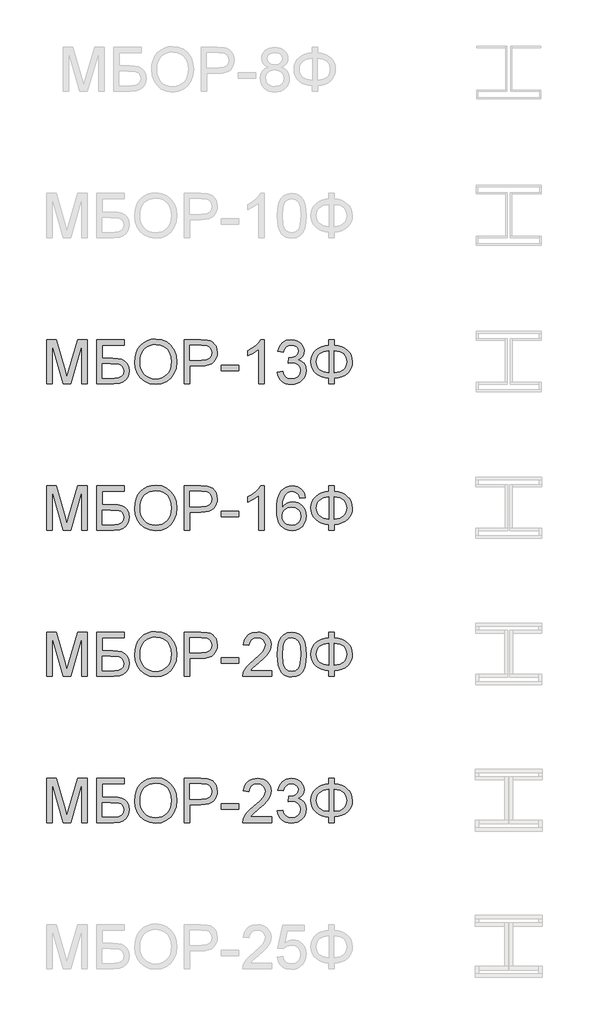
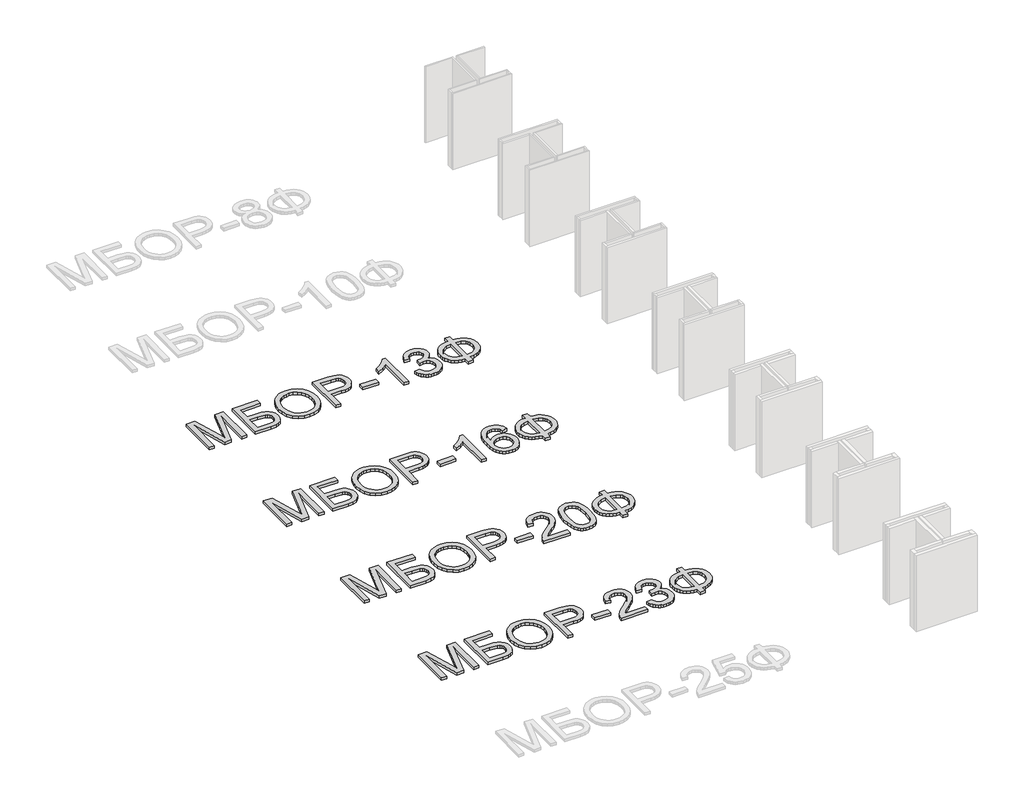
# One storey, part 14 of 35: 4 proxies.
"""IFC4 building model written with IfcOpenShell, lengths in millimetres."""

from ifc_helpers import new_model, si_unit, origin, origin_with_axes, place, context, project, spatial, polyline, outline, extrude, element, save

model = new_model("IFC4")

# Units and contexts
model_context = context("Model", 3, world=origin())
ifc_project = project(units=[si_unit("LENGTHUNIT", "METRE", prefix="MILLI")], contexts=[model_context])

# Site, building, storey
site = spatial("IfcSite", under=ifc_project)
building = spatial("IfcBuilding", under=site)
storey = spatial("IfcBuildingStorey", under=building, Name="Этаж 01", Elevation=0.0)

# Proxies
placement = place(None, origin())
element("IfcBuildingElementProxy", 1, Name="600 мм Arial", ObjectType="600 мм Arial", at=placement, inside=storey, context=model_context, shape_type="SweptSolid", body=[
    extrude(outline(polyline([(15506.5104711, -52310.4960856), (15506.5104711, -52009.1271552), (15571.3312786, -52009.1271552), (15632.988301, -52221.5422192), (15645.4227125, -52265.9087878), (15658.8871935, -52217.8633993), (15719.5141463, -52009.1271552), (15784.3349539, -52009.1271552), (15784.3349539, -52310.4960856), (15746.6638375, -52310.4960856), (15746.6638375, -52046.7982715), (15670.9537229, -52310.4960856), (15619.891702, -52310.4960856), (15544.1815874, -52046.7982715), (15544.1815874, -52310.4960856), (15506.5104711, -52310.4960856)])), origin_with_axes(), (0.0, 0.0, 1.0), 20.0),
    extrude(outline(polyline([(15850.2594074, -52009.1271552), (16038.6149889, -52009.1271552), (16038.6149889, -52046.7982715), (15887.9305237, -52046.7982715), (15887.9305237, -52136.2671727), (15958.4902904, -52136.2671727), (15993.5678386, -52138.1801591), (16020.6623476, -52143.9191182), (16041.4660744, -52154.9739722), (16057.6712763, -52172.8346431), (16068.1007308, -52195.8272678), (16071.5772157, -52222.2779832), (16069.1032093, -52244.4888587), (16061.68119, -52265.209812), (16049.3479461, -52283.3555915), (16032.1402658, -52297.840945), (16005.5975799, -52307.3323005), (15965.2593191, -52310.4960856), (15850.2594074, -52310.4960856), (15850.2594074, -52009.1271552)]), holes=[polyline([(15887.9305237, -52272.8249693), (15968.6438334, -52272.8249693), (15997.1730822, -52269.7163665), (16017.5721388, -52260.3905579), (16029.8226092, -52244.8475436), (16033.9060994, -52223.0873236), (16031.5700487, -52206.8821217), (16024.5618967, -52193.5831876), (16013.3874811, -52183.7239501), (15998.5526396, -52177.8378382), (15941.7884478, -52173.938289), (15887.9305237, -52173.938289), (15887.9305237, -52272.8249693)])]), origin_with_axes(), (0.0, 0.0, 1.0), 20.0),
    extrude(outline(polyline([(16109.248332, -52163.784746), (16111.7591266, -52128.4358848), (16119.2915105, -52097.1429225), (16131.8454835, -52069.9058593), (16149.4210459, -52046.7246951), (16170.9651352, -52028.2156322), (16195.4246894, -52014.994873), (16222.7997083, -52007.0624175), (16253.0901921, -52004.4182657), (16292.6191125, -52009.3846726), (16328.0645427, -52024.2838934), (16357.4951023, -52048.0674644), (16378.9794109, -52079.6869219), (16392.1127981, -52117.6155556), (16396.4905938, -52160.3266552), (16391.8828718, -52203.607972), (16378.0597059, -52242.0700345), (16355.7844511, -52273.7446743), (16325.8204626, -52296.6637226), (16290.678535, -52310.569662), (16252.8694629, -52315.2049752), (16212.7335372, -52310.0822184), (16177.0857719, -52294.7139481), (16147.7287887, -52270.4889187), (16126.4652094, -52238.7958848), (16113.5525513, -52202.329582), (16109.248332, -52163.784746)]), holes=[polyline([(16146.9194483, -52164.152628), (16148.8025443, -52189.1272169), (16154.4518321, -52211.2967056), (16163.867312, -52230.6610942), (16177.0489837, -52247.2203825), (16193.0725439, -52260.4825284), (16211.0136889, -52269.9554898), (16230.8724189, -52275.6392666), (16252.6487337, -52277.5338589), (16274.7975291, -52275.6208725), (16294.8907838, -52269.8819134), (16312.9284979, -52260.3169815), (16328.9106713, -52246.9260769), (16341.995774, -52230.0173007), (16351.342276, -52209.8987541), (16356.9501771, -52186.570437), (16358.8194775, -52160.0323496), (16355.6189042, -52126.6838468), (16346.0171841, -52097.8602924), (16330.2626376, -52074.2882536), (16308.6035852, -52056.6942972), (16282.4747665, -52045.7406108), (16253.3109213, -52042.089382), (16232.2910638, -52043.8483178), (16212.7887195, -52049.1251251), (16194.8038885, -52057.9198041), (16178.3365707, -52070.2323546), (16164.5915796, -52086.6559864), (16154.7737289, -52107.7839093), (16148.8830184, -52133.6161231), (16146.9194483, -52164.152628)])]), origin_with_axes(), (0.0, 0.0, 1.0), 20.0),
    extrude(outline(polyline([(16448.2883787, -52310.4960856), (16448.2883787, -52009.1271552), (16559.9773525, -52009.1271552), (16605.0061087, -52011.9966348), (16625.0832686, -52017.3585148), (16641.6103672, -52026.0865152), (16654.9184984, -52038.5761089), (16665.3387559, -52055.2227692), (16672.0709964, -52074.8584707), (16674.3150766, -52096.3151881), (16672.7998626, -52114.8150539), (16668.2542207, -52131.8341947), (16660.6781509, -52147.3726105), (16650.0716531, -52161.4303012), (16635.5104239, -52173.0829634), (16616.0701597, -52181.4062935), (16591.7508606, -52186.4002916), (16562.5525264, -52188.0649577), (16485.9594951, -52188.0649577), (16485.9594951, -52310.4960856), (16448.2883787, -52310.4960856)]), holes=[polyline([(16485.9594951, -52150.3938413), (16564.7598184, -52150.3938413), (16598.1635036, -52146.9357506), (16620.2364233, -52136.5614783), (16632.542076, -52119.914818), (16636.6439603, -52097.6395632), (16634.2251362, -52080.7169915), (16626.9686638, -52066.44317), (16615.7758541, -52055.7010158), (16601.5480179, -52049.3734455), (16563.8769016, -52046.7982715), (16485.9594951, -52046.7982715), (16485.9594951, -52150.3938413)])]), origin_with_axes(), (0.0, 0.0, 1.0), 20.0),
    extrude(outline(polyline([(16702.5684138, -52221.0271844), (16702.5684138, -52183.3560681), (16820.2906523, -52183.3560681), (16820.2906523, -52221.0271844), (16702.5684138, -52221.0271844)])), origin_with_axes(), (0.0, 0.0, 1.0), 20.0),
    extrude(outline(polyline([(16994.5195652, -52310.4960856), (16956.8484489, -52310.4960856), (16956.8484489, -52075.6402199), (16921.1638953, -52101.0608658), (16881.5062163, -52120.0803649), (16881.5062163, -52084.4693878), (16911.0931257, -52068.3745505), (16936.7253037, -52049.2262927), (16956.9312223, -52028.8640242), (16970.2393535, -52009.1271552), (16994.5195652, -52009.1271552), (16994.5195652, -52310.4960856)])), origin_with_axes(), (0.0, 0.0, 1.0), 20.0),
    extrude(outline(polyline([(17083.9884664, -52230.4449635), (17121.6595827, -52225.736074), (17130.0932775, -52249.4092803), (17142.4449154, -52265.393753), (17159.321502, -52274.4988324), (17181.3300423, -52277.5338589), (17207.1553584, -52273.3583982), (17227.0945625, -52260.8320163), (17239.8416737, -52242.1436109), (17244.0907107, -52219.48208), (17239.8784619, -52197.9701804), (17227.2417153, -52180.5233768), (17208.1118516, -52168.9626851), (17184.4202511, -52165.1091212), (17158.0063238, -52169.2293995), (17162.2001786, -52131.5582832), (17168.2334433, -52131.9997416), (17190.8030037, -52129.2958089), (17210.9813311, -52121.1840109), (17225.2183644, -52107.4620125), (17229.9640421, -52087.9274786), (17226.5243454, -52071.6578973), (17216.2052555, -52058.4601308), (17200.4599061, -52049.7137363), (17180.7414311, -52046.7982715), (17160.986168, -52049.7413275), (17144.8361484, -52058.5704954), (17133.0455305, -52073.2857752), (17126.3684723, -52093.8871669), (17088.697356, -52089.1782774), (17099.7889981, -52055.3515279), (17119.5258671, -52030.0964289), (17146.5284056, -52014.3694736), (17179.417056, -52009.1271552), (17203.0994594, -52011.7115262), (17224.8504824, -52019.4646393), (17243.1893998, -52031.6967156), (17256.6354867, -52047.7179765), (17264.8852405, -52066.1764556), (17267.6351584, -52085.7201866), (17265.0231962, -52103.9303454), (17257.1873097, -52120.4482469), (17244.2378635, -52134.5197333), (17226.2852221, -52145.3906462), (17249.866458, -52154.9187899), (17267.3408528, -52171.1423859), (17278.1565835, -52193.1785174), (17281.761827, -52220.1442676), (17279.9592052, -52239.2557373), (17274.5513399, -52256.8588908), (17265.538231, -52272.953728), (17252.9198786, -52287.5402491), (17237.5470097, -52299.6435668), (17220.2703515, -52308.2887937), (17201.089904, -52313.4759298), (17180.0056672, -52315.2049752), (17160.9493798, -52313.7288487), (17143.5853496, -52309.3004692), (17127.9135766, -52301.9198366), (17113.9340608, -52291.5869511), (17102.2124207, -52278.9088178), (17093.314275, -52264.4924422), (17087.2396235, -52248.337824), (17083.9884664, -52230.4449635)])), origin_with_axes(), (0.0, 0.0, 1.0), 20.0),
    extrude(outline(polyline([(17437.1551818, -52046.7982715), (17437.1551818, -52009.1271552), (17474.8262981, -52009.1271552), (17474.8262981, -52046.7982715), (17501.6977786, -52050.1184065), (17525.5848164, -52056.9886028), (17546.4874115, -52067.4088603), (17564.4055639, -52081.3791791), (17578.7782536, -52098.0856202), (17589.0444605, -52116.7142447), (17595.2041847, -52137.2650526), (17597.2574261, -52159.738044), (17595.268564, -52181.76038), (17589.3019779, -52202.0628676), (17579.3576678, -52220.6455069), (17565.4356335, -52237.5082978), (17547.8393778, -52251.7177399), (17526.8724034, -52262.3403325), (17502.5347101, -52269.3760756), (17474.8262981, -52272.8249693), (17474.8262981, -52310.4960856), (17437.1551818, -52310.4960856), (17437.1551818, -52272.8249693), (17411.9874548, -52270.0175699), (17389.0178227, -52263.6555106), (17368.2462856, -52253.7387916), (17349.6728433, -52240.2674128), (17334.3827479, -52223.7977957), (17323.4612512, -52204.8863619), (17316.9083531, -52183.5331113), (17314.7240538, -52159.738044), (17316.9014553, -52135.8349114), (17323.43366, -52114.4517704), (17334.3206678, -52095.5886211), (17349.5624787, -52079.2454635), (17368.101432, -52065.9051426), (17388.879867, -52056.0505037), (17411.8977836, -52049.6815466), (17437.1551818, -52046.7982715)]), holes=[polyline([(17437.1551818, -52084.4693878), (17402.8777769, -52090.5026525), (17375.8292532, -52105.5122379), (17365.5768418, -52116.217604), (17358.2536909, -52128.8359564), (17353.8598003, -52143.3672952), (17352.3951701, -52159.8116204), (17353.8414062, -52176.1064935), (17358.1801145, -52190.5573582), (17365.4112949, -52203.1642143), (17375.5349476, -52213.9270619), (17402.5098949, -52229.0746031), (17437.1551818, -52235.153853), (17437.1551818, -52084.4693878)]), polyline([(17474.8262981, -52084.4693878), (17474.8262981, -52235.153853), (17510.0693932, -52228.9274503), (17536.9247789, -52213.7799091), (17546.8391986, -52203.0538497), (17553.9209271, -52190.4837818), (17559.5863098, -52159.8116204), (17554.0220946, -52129.5533263), (17547.0668256, -52117.0591341), (17537.3294491, -52106.3215783), (17510.575231, -52090.9992932), (17474.8262981, -52084.4693878)])]), origin_with_axes(), (0.0, 0.0, 1.0), 20.0),
])
element("IfcBuildingElementProxy", 2, Name="600 мм Arial", ObjectType="600 мм Arial", at=placement, inside=storey, context=model_context, shape_type="SweptSolid", body=[
    extrude(outline(polyline([(15506.5104711, -53310.4960856), (15506.5104711, -53009.1271552), (15571.3312786, -53009.1271552), (15632.988301, -53221.5422192), (15645.4227125, -53265.9087878), (15658.8871935, -53217.8633993), (15719.5141463, -53009.1271552), (15784.3349539, -53009.1271552), (15784.3349539, -53310.4960856), (15746.6638375, -53310.4960856), (15746.6638375, -53046.7982715), (15670.9537229, -53310.4960856), (15619.891702, -53310.4960856), (15544.1815874, -53046.7982715), (15544.1815874, -53310.4960856), (15506.5104711, -53310.4960856)])), origin_with_axes(), (0.0, 0.0, 1.0), 20.0),
    extrude(outline(polyline([(15850.2594074, -53009.1271552), (16038.6149889, -53009.1271552), (16038.6149889, -53046.7982715), (15887.9305237, -53046.7982715), (15887.9305237, -53136.2671727), (15958.4902904, -53136.2671727), (15993.5678386, -53138.1801591), (16020.6623476, -53143.9191182), (16041.4660744, -53154.9739722), (16057.6712763, -53172.8346431), (16068.1007308, -53195.8272678), (16071.5772157, -53222.2779832), (16069.1032093, -53244.4888587), (16061.68119, -53265.209812), (16049.3479461, -53283.3555915), (16032.1402658, -53297.840945), (16005.5975799, -53307.3323005), (15965.2593191, -53310.4960856), (15850.2594074, -53310.4960856), (15850.2594074, -53009.1271552)]), holes=[polyline([(15887.9305237, -53272.8249693), (15968.6438334, -53272.8249693), (15997.1730822, -53269.7163665), (16017.5721388, -53260.3905579), (16029.8226092, -53244.8475436), (16033.9060994, -53223.0873236), (16031.5700487, -53206.8821217), (16024.5618967, -53193.5831876), (16013.3874811, -53183.7239501), (15998.5526396, -53177.8378382), (15941.7884478, -53173.938289), (15887.9305237, -53173.938289), (15887.9305237, -53272.8249693)])]), origin_with_axes(), (0.0, 0.0, 1.0), 20.0),
    extrude(outline(polyline([(16109.248332, -53163.784746), (16111.7591266, -53128.4358848), (16119.2915105, -53097.1429225), (16131.8454835, -53069.9058593), (16149.4210459, -53046.7246951), (16170.9651352, -53028.2156322), (16195.4246894, -53014.994873), (16222.7997083, -53007.0624175), (16253.0901921, -53004.4182657), (16292.6191125, -53009.3846726), (16328.0645427, -53024.2838934), (16357.4951023, -53048.0674644), (16378.9794109, -53079.6869219), (16392.1127981, -53117.6155556), (16396.4905938, -53160.3266552), (16391.8828718, -53203.607972), (16378.0597059, -53242.0700345), (16355.7844511, -53273.7446743), (16325.8204626, -53296.6637226), (16290.678535, -53310.569662), (16252.8694629, -53315.2049752), (16212.7335372, -53310.0822184), (16177.0857719, -53294.7139481), (16147.7287887, -53270.4889187), (16126.4652094, -53238.7958848), (16113.5525513, -53202.329582), (16109.248332, -53163.784746)]), holes=[polyline([(16146.9194483, -53164.152628), (16148.8025443, -53189.1272169), (16154.4518321, -53211.2967056), (16163.867312, -53230.6610942), (16177.0489837, -53247.2203825), (16193.0725439, -53260.4825284), (16211.0136889, -53269.9554898), (16230.8724189, -53275.6392666), (16252.6487337, -53277.5338589), (16274.7975291, -53275.6208725), (16294.8907838, -53269.8819134), (16312.9284979, -53260.3169815), (16328.9106713, -53246.9260769), (16341.995774, -53230.0173007), (16351.342276, -53209.8987541), (16356.9501771, -53186.570437), (16358.8194775, -53160.0323496), (16355.6189042, -53126.6838468), (16346.0171841, -53097.8602924), (16330.2626376, -53074.2882536), (16308.6035852, -53056.6942972), (16282.4747665, -53045.7406108), (16253.3109213, -53042.089382), (16232.2910638, -53043.8483178), (16212.7887195, -53049.1251251), (16194.8038885, -53057.9198041), (16178.3365707, -53070.2323546), (16164.5915796, -53086.6559864), (16154.7737289, -53107.7839093), (16148.8830184, -53133.6161231), (16146.9194483, -53164.152628)])]), origin_with_axes(), (0.0, 0.0, 1.0), 20.0),
    extrude(outline(polyline([(16448.2883787, -53310.4960856), (16448.2883787, -53009.1271552), (16559.9773525, -53009.1271552), (16605.0061087, -53011.9966348), (16625.0832686, -53017.3585148), (16641.6103672, -53026.0865152), (16654.9184984, -53038.5761089), (16665.3387559, -53055.2227692), (16672.0709964, -53074.8584707), (16674.3150766, -53096.3151881), (16672.7998626, -53114.8150539), (16668.2542207, -53131.8341947), (16660.6781509, -53147.3726105), (16650.0716531, -53161.4303012), (16635.5104239, -53173.0829634), (16616.0701597, -53181.4062935), (16591.7508606, -53186.4002916), (16562.5525264, -53188.0649577), (16485.9594951, -53188.0649577), (16485.9594951, -53310.4960856), (16448.2883787, -53310.4960856)]), holes=[polyline([(16485.9594951, -53150.3938413), (16564.7598184, -53150.3938413), (16598.1635036, -53146.9357506), (16620.2364233, -53136.5614783), (16632.542076, -53119.914818), (16636.6439603, -53097.6395632), (16634.2251362, -53080.7169915), (16626.9686638, -53066.44317), (16615.7758541, -53055.7010158), (16601.5480179, -53049.3734455), (16563.8769016, -53046.7982715), (16485.9594951, -53046.7982715), (16485.9594951, -53150.3938413)])]), origin_with_axes(), (0.0, 0.0, 1.0), 20.0),
    extrude(outline(polyline([(16702.5684138, -53221.0271844), (16702.5684138, -53183.3560681), (16820.2906523, -53183.3560681), (16820.2906523, -53221.0271844), (16702.5684138, -53221.0271844)])), origin_with_axes(), (0.0, 0.0, 1.0), 20.0),
    extrude(outline(polyline([(16994.5195652, -53310.4960856), (16956.8484489, -53310.4960856), (16956.8484489, -53075.6402199), (16921.1638953, -53101.0608658), (16881.5062163, -53120.0803649), (16881.5062163, -53084.4693878), (16911.0931257, -53068.3745505), (16936.7253037, -53049.2262927), (16956.9312223, -53028.8640242), (16970.2393535, -53009.1271552), (16994.5195652, -53009.1271552), (16994.5195652, -53310.4960856)])), origin_with_axes(), (0.0, 0.0, 1.0), 20.0),
    extrude(outline(polyline([(17277.0529375, -53089.1782774), (17239.3818212, -53093.8871669), (17233.3117683, -53075.2171556), (17225.1079998, -53062.4700445), (17208.0198811, -53050.7162148), (17187.3633071, -53046.7982715), (17169.8521241, -53049.0791399), (17153.3710107, -53055.921745), (17139.2167509, -53070.3335221), (17127.6560592, -53090.1715587), (17119.8477639, -53118.2317579), (17116.9506932, -53157.3100229), (17132.0614461, -53139.6792782), (17150.1704373, -53127.2540639), (17170.2659913, -53119.8872269), (17191.3364326, -53117.4316146), (17209.4362268, -53119.1100762), (17226.1380693, -53124.145461), (17241.4419603, -53132.537769), (17255.3478998, -53144.2870002), (17266.9039929, -53158.6941789), (17275.1583452, -53175.0603291), (17280.1109566, -53193.385451), (17281.761827, -53213.6695445), (17278.6532242, -53240.6444918), (17269.3274156, -53265.6512704), (17254.5569535, -53286.8596675), (17235.11439, -53302.43947), (17211.882642, -53312.0135989), (17185.7446263, -53315.2049752), (17163.2877297, -53313.0896537), (17143.0059355, -53306.7436893), (17124.8992435, -53296.1670819), (17108.9676539, -53281.3598316), (17095.9791202, -53261.696539), (17086.7015961, -53236.5518046), (17081.1350817, -53205.9256285), (17079.2795769, -53169.8180107), (17081.339716, -53129.3371956), (17087.5201336, -53094.7884778), (17097.8208294, -53066.1718571), (17112.2418036, -53043.4873335), (17127.8721899, -53028.4547555), (17145.9949767, -53017.7171998), (17166.610164, -53011.2746663), (17189.7177518, -53009.1271552), (17222.7719491, -53014.44305), (17249.2410586, -53030.3907345), (17267.7823112, -53055.7194099), (17277.0529375, -53089.1782774)]), holes=[polyline([(17116.9506932, -53213.0809333), (17119.130394, -53229.7735789), (17125.6694965, -53245.7120663), (17135.8230395, -53259.4156706), (17148.8460622, -53269.4036668), (17164.5638204, -53275.5013109), (17182.8015703, -53277.5338589), (17207.6611961, -53273.32161), (17227.2049271, -53260.6848635), (17239.8692648, -53240.8192358), (17244.0907107, -53214.9203433), (17239.9244471, -53190.0607175), (17227.4256563, -53171.1055977), (17207.5508315, -53159.1034476), (17181.2564659, -53155.1027309), (17156.4336283, -53159.1034476), (17135.6758867, -53171.1055977), (17121.6319916, -53189.600865), (17116.9506932, -53213.0809333)])]), origin_with_axes(), (0.0, 0.0, 1.0), 20.0),
    extrude(outline(polyline([(17437.1551818, -53046.7982715), (17437.1551818, -53009.1271552), (17474.8262981, -53009.1271552), (17474.8262981, -53046.7982715), (17501.6977786, -53050.1184065), (17525.5848164, -53056.9886028), (17546.4874115, -53067.4088603), (17564.4055639, -53081.3791791), (17578.7782536, -53098.0856202), (17589.0444605, -53116.7142447), (17595.2041847, -53137.2650526), (17597.2574261, -53159.738044), (17595.268564, -53181.76038), (17589.3019779, -53202.0628676), (17579.3576678, -53220.6455069), (17565.4356335, -53237.5082978), (17547.8393778, -53251.7177399), (17526.8724034, -53262.3403325), (17502.5347101, -53269.3760756), (17474.8262981, -53272.8249693), (17474.8262981, -53310.4960856), (17437.1551818, -53310.4960856), (17437.1551818, -53272.8249693), (17411.9874548, -53270.0175699), (17389.0178227, -53263.6555106), (17368.2462856, -53253.7387916), (17349.6728433, -53240.2674128), (17334.3827479, -53223.7977957), (17323.4612512, -53204.8863619), (17316.9083531, -53183.5331113), (17314.7240538, -53159.738044), (17316.9014553, -53135.8349114), (17323.43366, -53114.4517704), (17334.3206678, -53095.5886211), (17349.5624787, -53079.2454635), (17368.101432, -53065.9051426), (17388.879867, -53056.0505037), (17411.8977836, -53049.6815466), (17437.1551818, -53046.7982715)]), holes=[polyline([(17474.8262981, -53084.4693878), (17474.8262981, -53235.153853), (17510.0693932, -53228.9274503), (17536.9247789, -53213.7799091), (17546.8391986, -53203.0538497), (17553.9209271, -53190.4837818), (17559.5863098, -53159.8116204), (17554.0220946, -53129.5533263), (17547.0668256, -53117.0591341), (17537.3294491, -53106.3215783), (17510.575231, -53090.9992932), (17474.8262981, -53084.4693878)]), polyline([(17437.1551818, -53084.4693878), (17402.8777769, -53090.5026525), (17375.8292532, -53105.5122379), (17365.5768418, -53116.217604), (17358.2536909, -53128.8359564), (17353.8598003, -53143.3672952), (17352.3951701, -53159.8116204), (17353.8414062, -53176.1064935), (17358.1801145, -53190.5573582), (17365.4112949, -53203.1642143), (17375.5349476, -53213.9270619), (17402.5098949, -53229.0746031), (17437.1551818, -53235.153853), (17437.1551818, -53084.4693878)])]), origin_with_axes(), (0.0, 0.0, 1.0), 20.0),
])
element("IfcBuildingElementProxy", 3, Name="600 мм Arial", ObjectType="600 мм Arial", at=placement, inside=storey, context=model_context, shape_type="SweptSolid", body=[
    extrude(outline(polyline([(15506.5104711, -54310.4960856), (15506.5104711, -54009.1271552), (15571.3312786, -54009.1271552), (15632.988301, -54221.5422192), (15645.4227125, -54265.9087878), (15658.8871935, -54217.8633993), (15719.5141463, -54009.1271552), (15784.3349539, -54009.1271552), (15784.3349539, -54310.4960856), (15746.6638375, -54310.4960856), (15746.6638375, -54046.7982715), (15670.9537229, -54310.4960856), (15619.891702, -54310.4960856), (15544.1815874, -54046.7982715), (15544.1815874, -54310.4960856), (15506.5104711, -54310.4960856)])), origin_with_axes(), (0.0, 0.0, 1.0), 20.0),
    extrude(outline(polyline([(15850.2594074, -54009.1271552), (16038.6149889, -54009.1271552), (16038.6149889, -54046.7982715), (15887.9305237, -54046.7982715), (15887.9305237, -54136.2671727), (15958.4902904, -54136.2671727), (15993.5678386, -54138.1801591), (16020.6623476, -54143.9191182), (16041.4660744, -54154.9739722), (16057.6712763, -54172.8346431), (16068.1007308, -54195.8272678), (16071.5772157, -54222.2779832), (16069.1032093, -54244.4888587), (16061.68119, -54265.209812), (16049.3479461, -54283.3555915), (16032.1402658, -54297.840945), (16005.5975799, -54307.3323005), (15965.2593191, -54310.4960856), (15850.2594074, -54310.4960856), (15850.2594074, -54009.1271552)]), holes=[polyline([(15887.9305237, -54272.8249693), (15968.6438334, -54272.8249693), (15997.1730822, -54269.7163665), (16017.5721388, -54260.3905579), (16029.8226092, -54244.8475436), (16033.9060994, -54223.0873236), (16031.5700487, -54206.8821217), (16024.5618967, -54193.5831876), (16013.3874811, -54183.7239501), (15998.5526396, -54177.8378382), (15941.7884478, -54173.938289), (15887.9305237, -54173.938289), (15887.9305237, -54272.8249693)])]), origin_with_axes(), (0.0, 0.0, 1.0), 20.0),
    extrude(outline(polyline([(16109.248332, -54163.784746), (16111.7591266, -54128.4358848), (16119.2915105, -54097.1429225), (16131.8454835, -54069.9058593), (16149.4210459, -54046.7246951), (16170.9651352, -54028.2156322), (16195.4246894, -54014.994873), (16222.7997083, -54007.0624175), (16253.0901921, -54004.4182657), (16292.6191125, -54009.3846726), (16328.0645427, -54024.2838934), (16357.4951023, -54048.0674644), (16378.9794109, -54079.6869219), (16392.1127981, -54117.6155556), (16396.4905938, -54160.3266552), (16391.8828718, -54203.607972), (16378.0597059, -54242.0700345), (16355.7844511, -54273.7446743), (16325.8204626, -54296.6637226), (16290.678535, -54310.569662), (16252.8694629, -54315.2049752), (16212.7335372, -54310.0822184), (16177.0857719, -54294.7139481), (16147.7287887, -54270.4889187), (16126.4652094, -54238.7958848), (16113.5525513, -54202.329582), (16109.248332, -54163.784746)]), holes=[polyline([(16146.9194483, -54164.152628), (16148.8025443, -54189.1272169), (16154.4518321, -54211.2967056), (16163.867312, -54230.6610942), (16177.0489837, -54247.2203825), (16193.0725439, -54260.4825284), (16211.0136889, -54269.9554898), (16230.8724189, -54275.6392666), (16252.6487337, -54277.5338589), (16274.7975291, -54275.6208725), (16294.8907838, -54269.8819134), (16312.9284979, -54260.3169815), (16328.9106713, -54246.9260769), (16341.995774, -54230.0173007), (16351.342276, -54209.8987541), (16356.9501771, -54186.570437), (16358.8194775, -54160.0323496), (16355.6189042, -54126.6838468), (16346.0171841, -54097.8602924), (16330.2626376, -54074.2882536), (16308.6035852, -54056.6942972), (16282.4747665, -54045.7406108), (16253.3109213, -54042.089382), (16232.2910638, -54043.8483178), (16212.7887195, -54049.1251251), (16194.8038885, -54057.9198041), (16178.3365707, -54070.2323546), (16164.5915796, -54086.6559864), (16154.7737289, -54107.7839093), (16148.8830184, -54133.6161231), (16146.9194483, -54164.152628)])]), origin_with_axes(), (0.0, 0.0, 1.0), 20.0),
    extrude(outline(polyline([(16448.2883787, -54310.4960856), (16448.2883787, -54009.1271552), (16559.9773525, -54009.1271552), (16605.0061087, -54011.9966348), (16625.0832686, -54017.3585148), (16641.6103672, -54026.0865152), (16654.9184984, -54038.5761089), (16665.3387559, -54055.2227692), (16672.0709964, -54074.8584707), (16674.3150766, -54096.3151881), (16672.7998626, -54114.8150539), (16668.2542207, -54131.8341947), (16660.6781509, -54147.3726105), (16650.0716531, -54161.4303012), (16635.5104239, -54173.0829634), (16616.0701597, -54181.4062935), (16591.7508606, -54186.4002916), (16562.5525264, -54188.0649577), (16485.9594951, -54188.0649577), (16485.9594951, -54310.4960856), (16448.2883787, -54310.4960856)]), holes=[polyline([(16485.9594951, -54150.3938413), (16564.7598184, -54150.3938413), (16598.1635036, -54146.9357506), (16620.2364233, -54136.5614783), (16632.542076, -54119.914818), (16636.6439603, -54097.6395632), (16634.2251362, -54080.7169915), (16626.9686638, -54066.44317), (16615.7758541, -54055.7010158), (16601.5480179, -54049.3734455), (16563.8769016, -54046.7982715), (16485.9594951, -54046.7982715), (16485.9594951, -54150.3938413)])]), origin_with_axes(), (0.0, 0.0, 1.0), 20.0),
    extrude(outline(polyline([(16702.5684138, -54221.0271844), (16702.5684138, -54183.3560681), (16820.2906523, -54183.3560681), (16820.2906523, -54221.0271844), (16702.5684138, -54221.0271844)])), origin_with_axes(), (0.0, 0.0, 1.0), 20.0),
    extrude(outline(polyline([(17046.3173501, -54272.8249693), (17046.3173501, -54310.4960856), (16848.5439895, -54310.4960856), (16852.5906914, -54284.5236168), (16861.8797118, -54264.2257277), (16875.4729515, -54244.5348439), (16895.1362442, -54223.9242551), (16922.6354233, -54200.8672511), (16963.2863838, -54164.7596333), (16987.6769601, -54138.1065827), (16999.8722482, -54116.4751214), (17003.9373443, -54095.4322713), (17000.1021745, -54076.569122), (16988.5966651, -54060.8881519), (16970.9107381, -54050.3207416), (16948.5343158, -54046.7982715), (16925.0358533, -54050.2379682), (16906.7797093, -54060.5570581), (16894.9982884, -54076.946201), (16890.9239953, -54098.5960564), (16853.252879, -54093.8871669), (16862.3855496, -54057.4484553), (16870.9319082, -54042.9125179), (16882.1316157, -54030.8321929), (16895.7271546, -54021.3362389), (16911.4610077, -54014.5534146), (16949.3436562, -54009.1271552), (16969.5334799, -54010.6354714), (16987.5022161, -54015.1604199), (17003.2498648, -54022.7020008), (17016.7764259, -54033.2602141), (17027.6404411, -54046.0533105), (17035.4004519, -54060.2995407), (17040.0564584, -54075.9989049), (17041.6084606, -54093.1514029), (17039.9345975, -54111.1684236), (17034.9130083, -54128.8727446), (17026.0010669, -54146.8805683), (17012.6561475, -54165.8080969), (16991.3833712, -54188.4052485), (16958.6878589, -54217.4219409), (16915.3513598, -54253.6583174), (16898.3552116, -54272.8249693), (17046.3173501, -54272.8249693)])), origin_with_axes(), (0.0, 0.0, 1.0), 20.0),
    extrude(outline(polyline([(17083.9884664, -54162.2396416), (17086.7567784, -54114.001115), (17095.0617145, -54075.5298553), (17108.8205011, -54046.2372515), (17127.9503648, -54025.5346922), (17152.5892615, -54013.2290394), (17182.8751467, -54009.1271552), (17206.0885006, -54011.5551764), (17226.8738333, -54018.8392399), (17244.2562576, -54030.6942372), (17257.2608861, -54046.8350597), (17267.0833354, -54067.1237517), (17274.9192219, -54091.4223575), (17280.0511757, -54122.2784599), (17281.761827, -54162.2396416), (17279.0211062, -54210.2022567), (17270.7989436, -54248.5815459), (17257.1229304, -54277.9017409), (17238.0206578, -54298.6870736), (17213.3265789, -54311.0754998), (17182.8751467, -54315.2049752), (17162.1266022, -54313.4115505), (17143.7325024, -54308.0312763), (17127.6928474, -54299.0641526), (17114.0076372, -54286.5101796), (17100.87425, -54263.816459), (17091.4932591, -54235.5401291), (17085.8646646, -54201.68119), (17083.9884664, -54162.2396416)]), holes=[polyline([(17121.6595827, -54162.1660652), (17126.0741667, -54221.4226576), (17131.5923966, -54241.6906562), (17139.3179185, -54255.7184566), (17159.0363934, -54272.0800083), (17182.8751467, -54277.5338589), (17206.7139, -54272.0616142), (17226.4323749, -54255.6448802), (17234.1578968, -54241.5940872), (17239.6761268, -54221.3306871), (17244.0907107, -54162.1660652), (17239.8232796, -54104.2430451), (17234.4889906, -54084.041725), (17227.0209861, -54069.6805316), (17207.3392994, -54052.5188365), (17182.4336883, -54046.7982715), (17158.8524524, -54051.8382548), (17139.9065297, -54066.9582048), (17131.9234904, -54082.5931896), (17126.2213195, -54103.672828), (17121.6595827, -54162.1660652)])]), origin_with_axes(), (0.0, 0.0, 1.0), 20.0),
    extrude(outline(polyline([(17437.1551818, -54046.7982715), (17437.1551818, -54009.1271552), (17474.8262981, -54009.1271552), (17474.8262981, -54046.7982715), (17501.6977786, -54050.1184065), (17525.5848164, -54056.9886028), (17546.4874115, -54067.4088603), (17564.4055639, -54081.3791791), (17578.7782536, -54098.0856202), (17589.0444605, -54116.7142447), (17595.2041847, -54137.2650526), (17597.2574261, -54159.738044), (17595.268564, -54181.76038), (17589.3019779, -54202.0628676), (17579.3576678, -54220.6455069), (17565.4356335, -54237.5082978), (17547.8393778, -54251.7177399), (17526.8724034, -54262.3403325), (17502.5347101, -54269.3760756), (17474.8262981, -54272.8249693), (17474.8262981, -54310.4960856), (17437.1551818, -54310.4960856), (17437.1551818, -54272.8249693), (17411.9874548, -54270.0175699), (17389.0178227, -54263.6555106), (17368.2462856, -54253.7387916), (17349.6728433, -54240.2674128), (17334.3827479, -54223.7977957), (17323.4612512, -54204.8863619), (17316.9083531, -54183.5331113), (17314.7240538, -54159.738044), (17316.9014553, -54135.8349114), (17323.43366, -54114.4517704), (17334.3206678, -54095.5886211), (17349.5624787, -54079.2454635), (17368.101432, -54065.9051426), (17388.879867, -54056.0505037), (17411.8977836, -54049.6815466), (17437.1551818, -54046.7982715)]), holes=[polyline([(17437.1551818, -54084.4693878), (17402.8777769, -54090.5026525), (17375.8292532, -54105.5122379), (17365.5768418, -54116.217604), (17358.2536909, -54128.8359564), (17353.8598003, -54143.3672952), (17352.3951701, -54159.8116204), (17353.8414062, -54176.1064935), (17358.1801145, -54190.5573582), (17365.4112949, -54203.1642143), (17375.5349476, -54213.9270619), (17402.5098949, -54229.0746031), (17437.1551818, -54235.153853), (17437.1551818, -54084.4693878)]), polyline([(17474.8262981, -54084.4693878), (17474.8262981, -54235.153853), (17510.0693932, -54228.9274503), (17536.9247789, -54213.7799091), (17546.8391986, -54203.0538497), (17553.9209271, -54190.4837818), (17559.5863098, -54159.8116204), (17554.0220946, -54129.5533263), (17547.0668256, -54117.0591341), (17537.3294491, -54106.3215783), (17510.575231, -54090.9992932), (17474.8262981, -54084.4693878)])]), origin_with_axes(), (0.0, 0.0, 1.0), 20.0),
])
element("IfcBuildingElementProxy", 4, Name="600 мм Arial", ObjectType="600 мм Arial", at=placement, inside=storey, context=model_context, shape_type="SweptSolid", body=[
    extrude(outline(polyline([(15506.5104711, -55310.4960856), (15506.5104711, -55009.1271552), (15571.3312786, -55009.1271552), (15632.988301, -55221.5422192), (15645.4227125, -55265.9087878), (15658.8871935, -55217.8633993), (15719.5141463, -55009.1271552), (15784.3349539, -55009.1271552), (15784.3349539, -55310.4960856), (15746.6638375, -55310.4960856), (15746.6638375, -55046.7982715), (15670.9537229, -55310.4960856), (15619.891702, -55310.4960856), (15544.1815874, -55046.7982715), (15544.1815874, -55310.4960856), (15506.5104711, -55310.4960856)])), origin_with_axes(), (0.0, 0.0, 1.0), 20.0),
    extrude(outline(polyline([(15850.2594074, -55009.1271552), (16038.6149889, -55009.1271552), (16038.6149889, -55046.7982715), (15887.9305237, -55046.7982715), (15887.9305237, -55136.2671727), (15958.4902904, -55136.2671727), (15993.5678386, -55138.1801591), (16020.6623476, -55143.9191182), (16041.4660744, -55154.9739722), (16057.6712763, -55172.8346431), (16068.1007308, -55195.8272678), (16071.5772157, -55222.2779832), (16069.1032093, -55244.4888587), (16061.68119, -55265.209812), (16049.3479461, -55283.3555915), (16032.1402658, -55297.840945), (16005.5975799, -55307.3323005), (15965.2593191, -55310.4960856), (15850.2594074, -55310.4960856), (15850.2594074, -55009.1271552)]), holes=[polyline([(15887.9305237, -55272.8249693), (15968.6438334, -55272.8249693), (15997.1730822, -55269.7163665), (16017.5721388, -55260.3905579), (16029.8226092, -55244.8475436), (16033.9060994, -55223.0873236), (16031.5700487, -55206.8821217), (16024.5618967, -55193.5831876), (16013.3874811, -55183.7239501), (15998.5526396, -55177.8378382), (15941.7884478, -55173.938289), (15887.9305237, -55173.938289), (15887.9305237, -55272.8249693)])]), origin_with_axes(), (0.0, 0.0, 1.0), 20.0),
    extrude(outline(polyline([(16109.248332, -55163.784746), (16111.7591266, -55128.4358848), (16119.2915105, -55097.1429225), (16131.8454835, -55069.9058593), (16149.4210459, -55046.7246951), (16170.9651352, -55028.2156322), (16195.4246894, -55014.994873), (16222.7997083, -55007.0624175), (16253.0901921, -55004.4182657), (16292.6191125, -55009.3846726), (16328.0645427, -55024.2838934), (16357.4951023, -55048.0674644), (16378.9794109, -55079.6869219), (16392.1127981, -55117.6155556), (16396.4905938, -55160.3266552), (16391.8828718, -55203.607972), (16378.0597059, -55242.0700345), (16355.7844511, -55273.7446743), (16325.8204626, -55296.6637226), (16290.678535, -55310.569662), (16252.8694629, -55315.2049752), (16212.7335372, -55310.0822184), (16177.0857719, -55294.7139481), (16147.7287887, -55270.4889187), (16126.4652094, -55238.7958848), (16113.5525513, -55202.329582), (16109.248332, -55163.784746)]), holes=[polyline([(16146.9194483, -55164.152628), (16148.8025443, -55189.1272169), (16154.4518321, -55211.2967056), (16163.867312, -55230.6610942), (16177.0489837, -55247.2203825), (16193.0725439, -55260.4825284), (16211.0136889, -55269.9554898), (16230.8724189, -55275.6392666), (16252.6487337, -55277.5338589), (16274.7975291, -55275.6208725), (16294.8907838, -55269.8819134), (16312.9284979, -55260.3169815), (16328.9106713, -55246.9260769), (16341.995774, -55230.0173007), (16351.342276, -55209.8987541), (16356.9501771, -55186.570437), (16358.8194775, -55160.0323496), (16355.6189042, -55126.6838468), (16346.0171841, -55097.8602924), (16330.2626376, -55074.2882536), (16308.6035852, -55056.6942972), (16282.4747665, -55045.7406108), (16253.3109213, -55042.089382), (16232.2910638, -55043.8483178), (16212.7887195, -55049.1251251), (16194.8038885, -55057.9198041), (16178.3365707, -55070.2323546), (16164.5915796, -55086.6559864), (16154.7737289, -55107.7839093), (16148.8830184, -55133.6161231), (16146.9194483, -55164.152628)])]), origin_with_axes(), (0.0, 0.0, 1.0), 20.0),
    extrude(outline(polyline([(16448.2883787, -55310.4960856), (16448.2883787, -55009.1271552), (16559.9773525, -55009.1271552), (16605.0061087, -55011.9966348), (16625.0832686, -55017.3585148), (16641.6103672, -55026.0865152), (16654.9184984, -55038.5761089), (16665.3387559, -55055.2227692), (16672.0709964, -55074.8584707), (16674.3150766, -55096.3151881), (16672.7998626, -55114.8150539), (16668.2542207, -55131.8341947), (16660.6781509, -55147.3726105), (16650.0716531, -55161.4303012), (16635.5104239, -55173.0829634), (16616.0701597, -55181.4062935), (16591.7508606, -55186.4002916), (16562.5525264, -55188.0649577), (16485.9594951, -55188.0649577), (16485.9594951, -55310.4960856), (16448.2883787, -55310.4960856)]), holes=[polyline([(16485.9594951, -55150.3938413), (16564.7598184, -55150.3938413), (16598.1635036, -55146.9357506), (16620.2364233, -55136.5614783), (16632.542076, -55119.914818), (16636.6439603, -55097.6395632), (16634.2251362, -55080.7169915), (16626.9686638, -55066.44317), (16615.7758541, -55055.7010158), (16601.5480179, -55049.3734455), (16563.8769016, -55046.7982715), (16485.9594951, -55046.7982715), (16485.9594951, -55150.3938413)])]), origin_with_axes(), (0.0, 0.0, 1.0), 20.0),
    extrude(outline(polyline([(16702.5684138, -55221.0271844), (16702.5684138, -55183.3560681), (16820.2906523, -55183.3560681), (16820.2906523, -55221.0271844), (16702.5684138, -55221.0271844)])), origin_with_axes(), (0.0, 0.0, 1.0), 20.0),
    extrude(outline(polyline([(17046.3173501, -55272.8249693), (17046.3173501, -55310.4960856), (16848.5439895, -55310.4960856), (16852.5906914, -55284.5236168), (16861.8797118, -55264.2257277), (16875.4729515, -55244.5348439), (16895.1362442, -55223.9242551), (16922.6354233, -55200.8672511), (16963.2863838, -55164.7596333), (16987.6769601, -55138.1065827), (16999.8722482, -55116.4751214), (17003.9373443, -55095.4322713), (17000.1021745, -55076.569122), (16988.5966651, -55060.8881519), (16970.9107381, -55050.3207416), (16948.5343158, -55046.7982715), (16925.0358533, -55050.2379682), (16906.7797093, -55060.5570581), (16894.9982884, -55076.946201), (16890.9239953, -55098.5960564), (16853.252879, -55093.8871669), (16862.3855496, -55057.4484553), (16870.9319082, -55042.9125179), (16882.1316157, -55030.8321929), (16895.7271546, -55021.3362389), (16911.4610077, -55014.5534146), (16949.3436562, -55009.1271552), (16969.5334799, -55010.6354714), (16987.5022161, -55015.1604199), (17003.2498648, -55022.7020008), (17016.7764259, -55033.2602141), (17027.6404411, -55046.0533105), (17035.4004519, -55060.2995407), (17040.0564584, -55075.9989049), (17041.6084606, -55093.1514029), (17039.9345975, -55111.1684236), (17034.9130083, -55128.8727446), (17026.0010669, -55146.8805683), (17012.6561475, -55165.8080969), (16991.3833712, -55188.4052485), (16958.6878589, -55217.4219409), (16915.3513598, -55253.6583174), (16898.3552116, -55272.8249693), (17046.3173501, -55272.8249693)])), origin_with_axes(), (0.0, 0.0, 1.0), 20.0),
    extrude(outline(polyline([(17083.9884664, -55230.4449635), (17121.6595827, -55225.736074), (17130.0932775, -55249.4092803), (17142.4449154, -55265.393753), (17159.321502, -55274.4988324), (17181.3300423, -55277.5338589), (17207.1553584, -55273.3583982), (17227.0945625, -55260.8320163), (17239.8416737, -55242.1436109), (17244.0907107, -55219.48208), (17239.8784619, -55197.9701804), (17227.2417153, -55180.5233768), (17208.1118516, -55168.9626851), (17184.4202511, -55165.1091212), (17158.0063238, -55169.2293995), (17162.2001786, -55131.5582832), (17168.2334433, -55131.9997416), (17190.8030037, -55129.2958089), (17210.9813311, -55121.1840109), (17225.2183644, -55107.4620125), (17229.9640421, -55087.9274786), (17226.5243454, -55071.6578973), (17216.2052555, -55058.4601308), (17200.4599061, -55049.7137363), (17180.7414311, -55046.7982715), (17160.986168, -55049.7413275), (17144.8361484, -55058.5704954), (17133.0455305, -55073.2857752), (17126.3684723, -55093.8871669), (17088.697356, -55089.1782774), (17099.7889981, -55055.3515279), (17119.5258671, -55030.0964289), (17146.5284056, -55014.3694736), (17179.417056, -55009.1271552), (17203.0994594, -55011.7115262), (17224.8504824, -55019.4646393), (17243.1893998, -55031.6967156), (17256.6354867, -55047.7179765), (17264.8852405, -55066.1764556), (17267.6351584, -55085.7201866), (17265.0231962, -55103.9303454), (17257.1873097, -55120.4482469), (17244.2378635, -55134.5197333), (17226.2852221, -55145.3906462), (17249.866458, -55154.9187899), (17267.3408528, -55171.1423859), (17278.1565835, -55193.1785174), (17281.761827, -55220.1442676), (17279.9592052, -55239.2557373), (17274.5513399, -55256.8588908), (17265.538231, -55272.953728), (17252.9198786, -55287.5402491), (17237.5470097, -55299.6435668), (17220.2703515, -55308.2887937), (17201.089904, -55313.4759298), (17180.0056672, -55315.2049752), (17160.9493798, -55313.7288487), (17143.5853496, -55309.3004692), (17127.9135766, -55301.9198366), (17113.9340608, -55291.5869511), (17102.2124207, -55278.9088178), (17093.314275, -55264.4924422), (17087.2396235, -55248.337824), (17083.9884664, -55230.4449635)])), origin_with_axes(), (0.0, 0.0, 1.0), 20.0),
    extrude(outline(polyline([(17437.1551818, -55046.7982715), (17437.1551818, -55009.1271552), (17474.8262981, -55009.1271552), (17474.8262981, -55046.7982715), (17501.6977786, -55050.1184065), (17525.5848164, -55056.9886028), (17546.4874115, -55067.4088603), (17564.4055639, -55081.3791791), (17578.7782536, -55098.0856202), (17589.0444605, -55116.7142447), (17595.2041847, -55137.2650526), (17597.2574261, -55159.738044), (17595.268564, -55181.76038), (17589.3019779, -55202.0628676), (17579.3576678, -55220.6455069), (17565.4356335, -55237.5082978), (17547.8393778, -55251.7177399), (17526.8724034, -55262.3403325), (17502.5347101, -55269.3760756), (17474.8262981, -55272.8249693), (17474.8262981, -55310.4960856), (17437.1551818, -55310.4960856), (17437.1551818, -55272.8249693), (17411.9874548, -55270.0175699), (17389.0178227, -55263.6555106), (17368.2462856, -55253.7387916), (17349.6728433, -55240.2674128), (17334.3827479, -55223.7977957), (17323.4612512, -55204.8863619), (17316.9083531, -55183.5331113), (17314.7240538, -55159.738044), (17316.9014553, -55135.8349114), (17323.43366, -55114.4517704), (17334.3206678, -55095.5886211), (17349.5624787, -55079.2454635), (17368.101432, -55065.9051426), (17388.879867, -55056.0505037), (17411.8977836, -55049.6815466), (17437.1551818, -55046.7982715)]), holes=[polyline([(17437.1551818, -55084.4693878), (17402.8777769, -55090.5026525), (17375.8292532, -55105.5122379), (17365.5768418, -55116.217604), (17358.2536909, -55128.8359564), (17353.8598003, -55143.3672952), (17352.3951701, -55159.8116204), (17353.8414062, -55176.1064935), (17358.1801145, -55190.5573582), (17365.4112949, -55203.1642143), (17375.5349476, -55213.9270619), (17402.5098949, -55229.0746031), (17437.1551818, -55235.153853), (17437.1551818, -55084.4693878)]), polyline([(17474.8262981, -55084.4693878), (17474.8262981, -55235.153853), (17510.0693932, -55228.9274503), (17536.9247789, -55213.7799091), (17546.8391986, -55203.0538497), (17553.9209271, -55190.4837818), (17559.5863098, -55159.8116204), (17554.0220946, -55129.5533263), (17547.0668256, -55117.0591341), (17537.3294491, -55106.3215783), (17510.575231, -55090.9992932), (17474.8262981, -55084.4693878)])]), origin_with_axes(), (0.0, 0.0, 1.0), 20.0),
])

save(model, "model.ifc")
